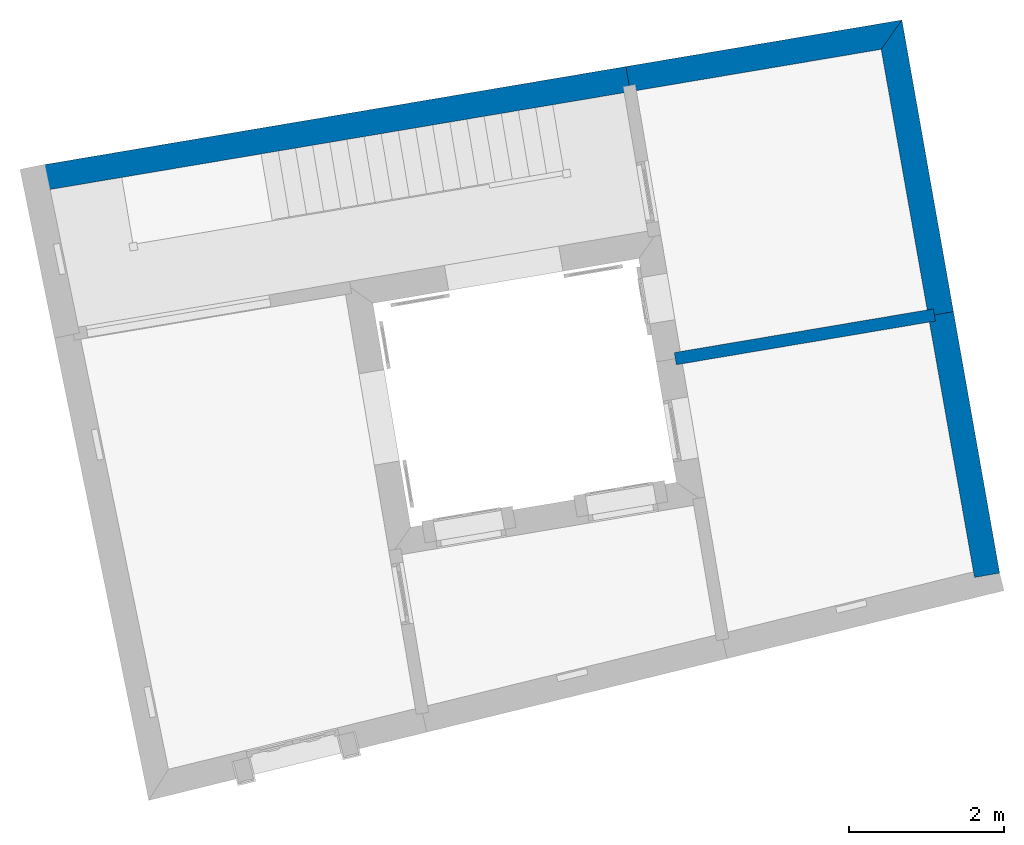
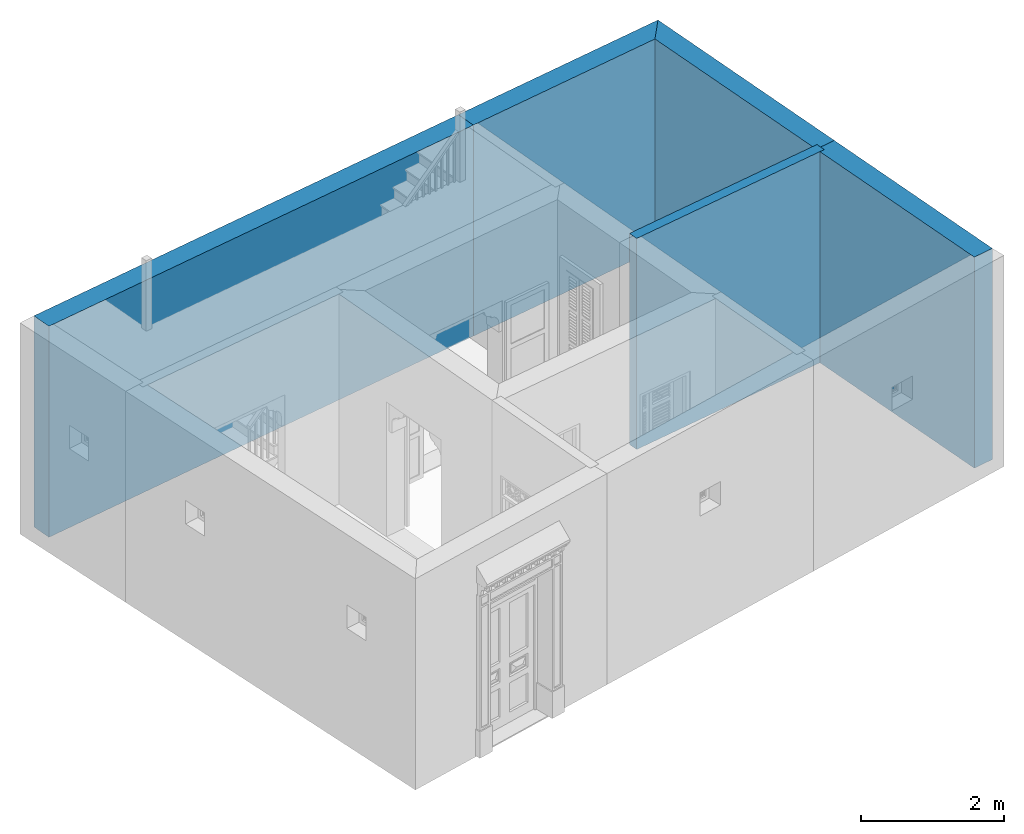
# One storey, part 15 of 15: 5 walls.
"""IFC4 building model written with IfcOpenShell, lengths in metres."""

from ifc_helpers import new_model, si_unit, frame, origin_with_axes, place, context, subcontext, project, spatial, polyline, outline, extrude, material, layer, layer_set, layer_usage, type_object, element, save


model = new_model("IFC4")

# Units and contexts
model_context = context("Model", 3, world=origin_with_axes())
body_context = subcontext(model_context, "Body", "Model", "MODEL_VIEW")
ifc_project = project(units=[si_unit("PLANEANGLEUNIT", "RADIAN"), si_unit("MASSUNIT", "GRAM", prefix="KILO"), si_unit("FORCEUNIT", "NEWTON", prefix="KILO"), si_unit("LENGTHUNIT", "METRE"), si_unit("AREAUNIT", "SQUARE_METRE"), si_unit("VOLUMEUNIT", "CUBIC_METRE")], contexts=[model_context, model_context])

# Site, building, storey
site_placement = place(None, origin_with_axes())
site = spatial("IfcSite", under=ifc_project, at=site_placement, Name="Site plot-6", CompositionType="ELEMENT")
building_placement = place(None, origin_with_axes())
building = spatial("IfcBuilding", under=site, at=building_placement, Name="Building plot-6", CompositionType="ELEMENT")
storey_placement = place(None, origin_with_axes())
storey = spatial("IfcBuildingStorey", under=building, at=storey_placement, Name="plot-6 0", CompositionType="ELEMENT", Elevation=0.0)

# Walls
ifc_material_1 = material(Name="Masonry")
ifc_layer_1 = layer(ifc_material_1, 0.33, ventilated=False)
ifc_layer_set_1 = layer_set([ifc_layer_1], Name="party_0.08_0.25")
ifc_layer_usage_1 = layer_usage(ifc_layer_set_1, "AXIS2", "POSITIVE", -0.25)
wall_type_1 = type_object("IfcWallType", Name="party_0.08_0.25", PredefinedType="SOLIDWALL", material=ifc_layer_set_1)
wall_1_placement = place(storey_placement, frame((1.2030756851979, -1.07296405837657, 0.0), z_axis=(0.0, 0.0, 1.0), x_axis=(-0.174013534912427, 0.984743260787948, 0.0)))
element("IfcWall", 1, at=wall_1_placement, inside=storey, type_object=wall_type_1, material=ifc_layer_usage_1, Name="party", context=body_context, shape_type="SweptSolid", body=[
    extrude(outline(polyline([(7.59528607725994e-17, 0.08), (-4.02030662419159e-17, -0.25), (3.43461120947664, -0.25), (3.43461120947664, 0.0799999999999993), (7.59528607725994e-17, 0.08)])), origin_with_axes(), (0.0, 0.0, 1.0), 3.6),
])
wall_2_placement = place(storey_placement, frame((0.605406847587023, 2.3092461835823, 0.0), z_axis=(0.0, 0.0, 1.0), x_axis=(-0.174013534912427, 0.984743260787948, 0.0)))
element("IfcWall", 2, at=wall_2_placement, inside=storey, type_object=wall_type_1, material=ifc_layer_usage_1, Name="party", context=body_context, shape_type="SweptSolid", body=[
    extrude(outline(polyline([(7.59528607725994e-17, 0.08), (1.81841538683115e-16, -0.25), (3.83069433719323, -0.25), (3.50326987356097, 0.0799999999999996), (7.59528607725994e-17, 0.08)])), origin_with_axes(), (0.0, 0.0, 1.0), 3.6),
])
wall_3_placement = place(storey_placement, frame((-0.018021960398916, 5.83723219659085, 0.0), z_axis=(0.0, 0.0, 1.0), x_axis=(-0.986076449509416, -0.166292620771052, 0.0)))
element("IfcWall", 3, at=wall_3_placement, inside=storey, type_object=wall_type_1, material=ifc_layer_usage_1, Name="party", context=body_context, shape_type="SweptSolid", body=[
    extrude(outline(polyline([(0.0793756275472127, 0.0800000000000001), (-0.24804883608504, -0.25), (3.37134361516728, -0.25), (3.37134361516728, 0.0800000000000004), (0.0793756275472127, 0.0800000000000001)])), origin_with_axes(), (0.0, 0.0, 1.0), 3.6),
])
wall_4_placement = place(storey_placement, frame((-3.34242450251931, 5.27660263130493, 0.0), z_axis=(0.0, 0.0, 1.0), x_axis=(-0.986076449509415, -0.166292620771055, 0.0)))
element("IfcWall", 4, at=wall_4_placement, inside=storey, type_object=wall_type_1, material=ifc_layer_usage_1, Name="party", context=body_context, shape_type="SweptSolid", body=[
    extrude(outline(polyline([(2.69521332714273e-16, 0.0800000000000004), (-8.72870334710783e-16, -0.25), (7.69267766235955, -0.249999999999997), (7.69267766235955, 0.0800000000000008), (2.69521332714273e-16, 0.0800000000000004)])), origin_with_axes(), (0.0, 0.0, 1.0), 3.6),
])
ifc_material_2 = material(Name="Masonry")
ifc_layer_2 = layer(ifc_material_2, 0.16, ventilated=False)
ifc_layer_set_2 = layer_set([ifc_layer_2], Name="interior_0.08_0.08")
ifc_layer_usage_2 = layer_usage(ifc_layer_set_2, "AXIS2", "POSITIVE", -0.08)
wall_type_2 = type_object("IfcWallType", Name="interior_0.08_0.08", PredefinedType="SOLIDWALL", material=ifc_layer_set_2)
wall_5_placement = place(storey_placement, frame((0.605406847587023, 2.3092461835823, 0.0), z_axis=(0.0, 0.0, 1.0), x_axis=(-0.986076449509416, -0.166292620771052, 0.0)))
element("IfcWall", 5, at=wall_5_placement, inside=storey, type_object=wall_type_2, material=ifc_layer_usage_2, Name="interior", context=body_context, shape_type="SweptSolid", body=[
    extrude(outline(polyline([(-1.46957615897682e-17, 0.08), (-3.06285495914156e-17, -0.08), (3.39941404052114, -0.0800000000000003), (3.39941404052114, 0.0800000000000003), (-1.46957615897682e-17, 0.08)])), origin_with_axes(), (0.0, 0.0, 1.0), 3.6),
])

save(model, "model.ifc")
